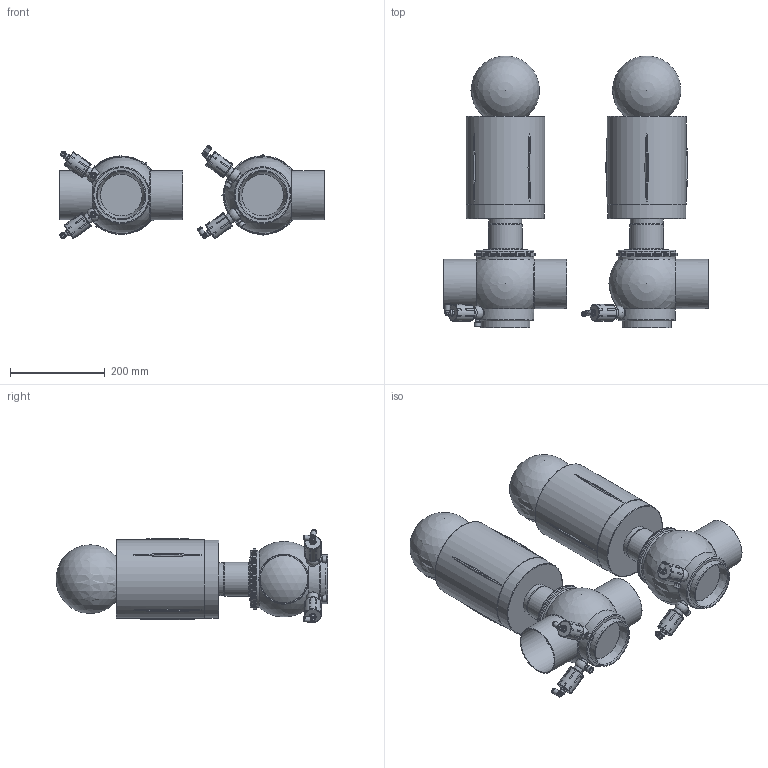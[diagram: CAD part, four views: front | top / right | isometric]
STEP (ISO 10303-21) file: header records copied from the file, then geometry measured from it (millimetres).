
FILE_DESCRIPTION(/* description */ (''),/* implementation_level */ '2;1');
FILE_NAME(/* name */ 'C:\Users\marz-m\Downloads\BZZAW3 3D STEP\BZAW3-DN100-SAL.stp',/* time_stamp */ '2018-09-26T15:24:39+02:00',/* author */ ('marz-m'),/* organization */ (''),/* preprocessor_version */ 'ST-DEVELOPER v17',/* originating_system */ 'Autodesk Inventor 2018',/* authorisation */ '');
FILE_SCHEMA (('AUTOMOTIVE_DESIGN { 1 0 10303 214 3 1 1 }'));
Length unit declared in the file: millimetre
Products named in the file (7): BZAW3-DN100-SAL; CIL156; Assemblaggio-DN0100; TRH5A0100BBA; TRH6A0100BBA; Valvolina 3A; 3DCMP000281
Assembly tree (12 placements, depth 2):
  BZAW3-DN100-SAL
    CIL156  x2
    Assemblaggio-DN0100  x2
    TRH5A0100BBA
    TRH6A0100BBA
    Valvolina 3A  x4
    3DCMP000281  x2
Bounding box: 558.47 x 573.97 x 196.41 mm (x, y, z)
Volume: 17746614.4 mm3; surface area: 930212.8 mm2
Topology: 12 solids, 12 shells, 659 faces, 1872 edges, 1313 vertices
Faces by surface type: plane 279, cylinder 195, cone 88, bspline 64, torus 21, sphere 12
Full cylindrical faces by diameter (mm): 2 x8, 6 x16, 7 x4, 8 x4, 8.1 x4, 10 x4, 11 x4, 11.5 x4, 12.918 x4, 13.157 x4, 14 x4, 15.9 x4, 16 x4, 20 x4, 22 x4, 35 x4, 69 x2, 71 x2, 100 x5, 104 x5, 120 x2, 121 x4, 129 x4, 164.5 x2, 166 x2
Entity records: 11747 total; most frequent: CARTESIAN_POINT 4980, ORIENTED_EDGE 1342, DIRECTION 1338, EDGE_CURVE 671, AXIS2_PLACEMENT_3D 565, VERTEX_POINT 478, CIRCLE 318, EDGE_LOOP 287
